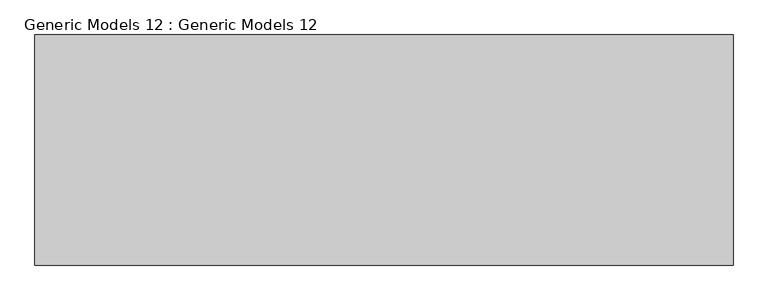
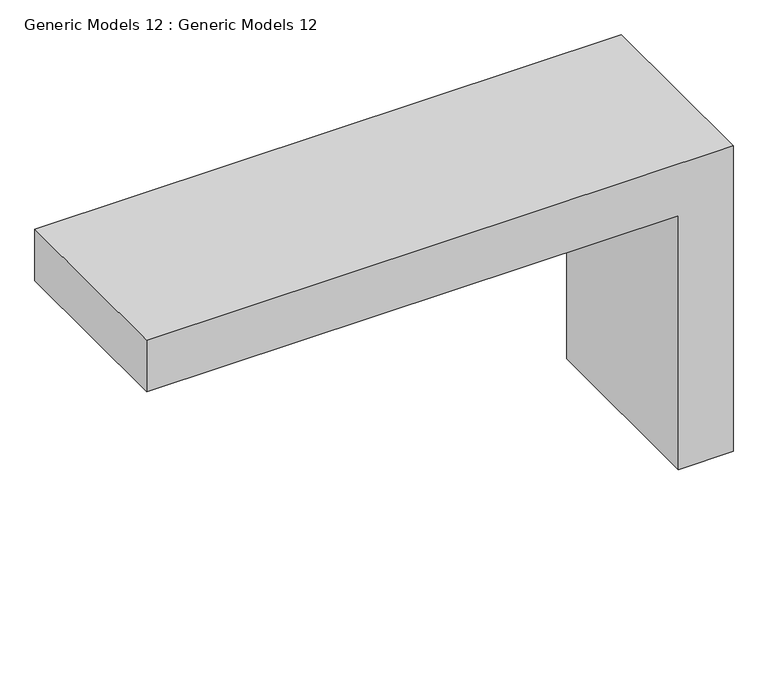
"""IFC4 building model written with IfcOpenShell, lengths in millimetres: proxy geometry, Generic Models 12 : Generic Models 12."""

from ifc_helpers import new_model, si_unit, frame, origin, place, context, project, spatial, polyline, outline, extrude, source, transform, mapped, element, save


def generic_models_12_generic_models_12_50780c83(model_context):
    return source(origin(), model_context, "Body", "SweptSolid", [
        extrude(outline(polyline([(12000.0, -5763.3274035), (12000.0, -11118.5171482), (11500.0, -11118.5171482), (11500.0, -6263.3274035), (9050.0, -6263.3274035), (9050.0, -5763.3274035), (12000.0, -5763.3274035)])), frame((0.0, -4196.3905645, 0.0), z_axis=(0.0, 1.0, 0.0), x_axis=(0.0, 0.0, 1.0)), (0.0, 0.0, 1.0), 1765.0057206),
    ])


if __name__ == "__main__":
    model = new_model("IFC4")
    model_context = context("Model", 3, world=origin())
    ifc_project = project(units=[si_unit("LENGTHUNIT", "METRE", prefix="MILLI")], contexts=[model_context])
    site = spatial("IfcSite", under=ifc_project)
    building = spatial("IfcBuilding", under=site)
    placement = place(None, origin())
    generic_models_12_generic_models_12_shape = generic_models_12_generic_models_12_50780c83(model_context)
    element("IfcBuildingElementProxy", 1, Name="Generic Models 12 : Generic Models 12", ObjectType="Generic Models 12 : Generic Models 12", at=placement, inside=building, context=model_context, shape_type="MappedRepresentation", body=[
        mapped(generic_models_12_generic_models_12_shape, transform((0.0, 0.0, 0.0), x_axis=(1.0, 0.0, 0.0), y_axis=(0.0, 1.0, 0.0), z_axis=(0.0, 0.0, 1.0))),
    ])
    save(model, "model.ifc")
